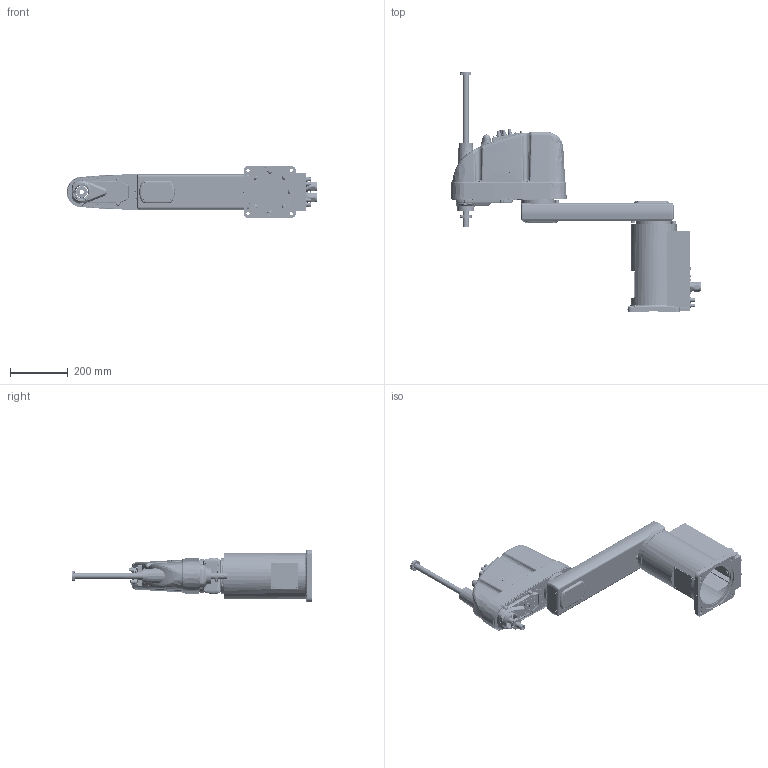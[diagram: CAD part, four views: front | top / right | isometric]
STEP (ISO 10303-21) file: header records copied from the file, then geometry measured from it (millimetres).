
FILE_DESCRIPTION((''),'2;1');
FILE_NAME('C_GS653S_ASM','2008-02-15T',('0179539'),(''),'PRO/ENGINEER BY PARAMETRIC TECHNOLOGY CORPORATION, 2004090','PRO/ENGINEER BY PARAMETRIC TECHNOLOGY CORPORATION, 2004090','');
FILE_SCHEMA(('CONFIG_CONTROL_DESIGN'));
Length unit declared in the file: millimetre
Products named in the file (5): GSBASE1; GSARM1_65; GSBODY; ZS_3; C_GS653S_ASM
Assembly tree (4 placements, depth 2):
  C_GS653S_ASM
    GSBASE1
    GSARM1_65
    GSBODY
    ZS_3
Bounding box: 867.27 x 831 x 180 mm (x, y, z)
Volume: 5262019.9 mm3; surface area: 1675909.8 mm2
Topology: 5 solids, 5 shells, 6888 faces, 17719 edges, 11405 vertices
Faces by surface type: plane 4423, cylinder 1342, bspline 454, cone 427, torus 195, extrusion 25, sphere 22
Entity records: 241369 total; most frequent: CARTESIAN_POINT 75214, ORIENTED_EDGE 35282, DIRECTION 32685, EDGE_CURVE 17641, VECTOR 12541, LINE 12516, VERTEX_POINT 11405, AXIS2_PLACEMENT_3D 10072
